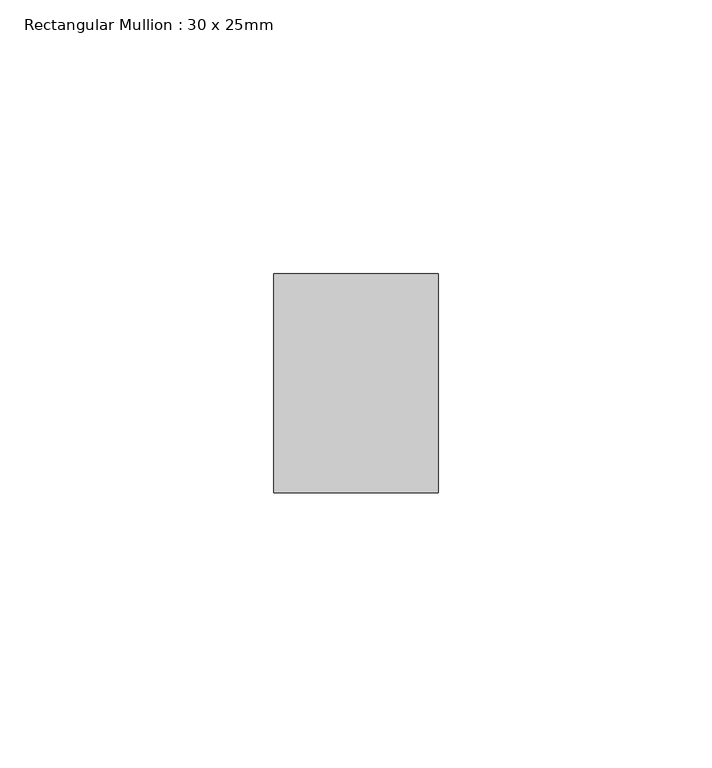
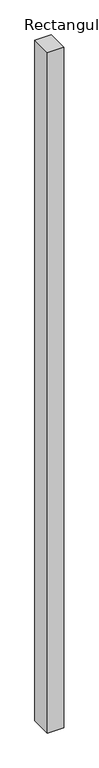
"""IFC4 building model written with IfcOpenShell, lengths in millimetres: member geometry, Rectangular Mullion : 30 x 25mm."""

from ifc_helpers import new_model, si_unit, frame, origin, place, context, project, spatial, polyline, outline, extrude, source, transform, mapped, element, save


def rectangular_mullion_30_x_25mm_f0ead37c(model_context):
    return source(origin(), model_context, "Body", "SweptSolid", [
        extrude(outline(polyline([(0.0, -20.0), (0.0, -60.0), (-30.0, -60.0), (-30.0, -20.0), (0.0, -20.0)])), frame((0.0, 0.0, -1320.0), z_axis=(0.0, 0.0, 1.0), x_axis=(1.0, 0.0, 0.0)), (0.0, 0.0, 1.0), 1320.0),
    ])


if __name__ == "__main__":
    model = new_model("IFC4")
    model_context = context("Model", 3, world=origin())
    ifc_project = project(units=[si_unit("LENGTHUNIT", "METRE", prefix="MILLI")], contexts=[model_context])
    site = spatial("IfcSite", under=ifc_project)
    building = spatial("IfcBuilding", under=site)
    placement = place(None, origin())
    rectangular_mullion_30_x_25mm_shape = rectangular_mullion_30_x_25mm_f0ead37c(model_context)
    element("IfcMember", 1, ObjectType="Rectangular Mullion : 30 x 25mm", at=placement, inside=building, context=model_context, shape_type="MappedRepresentation", body=[
        mapped(rectangular_mullion_30_x_25mm_shape, transform((0.0, 0.0, 0.0), x_axis=(1.0, 0.0, 0.0), y_axis=(0.0, 1.0, 0.0), z_axis=(0.0, 0.0, 1.0))),
    ])
    save(model, "model.ifc")
